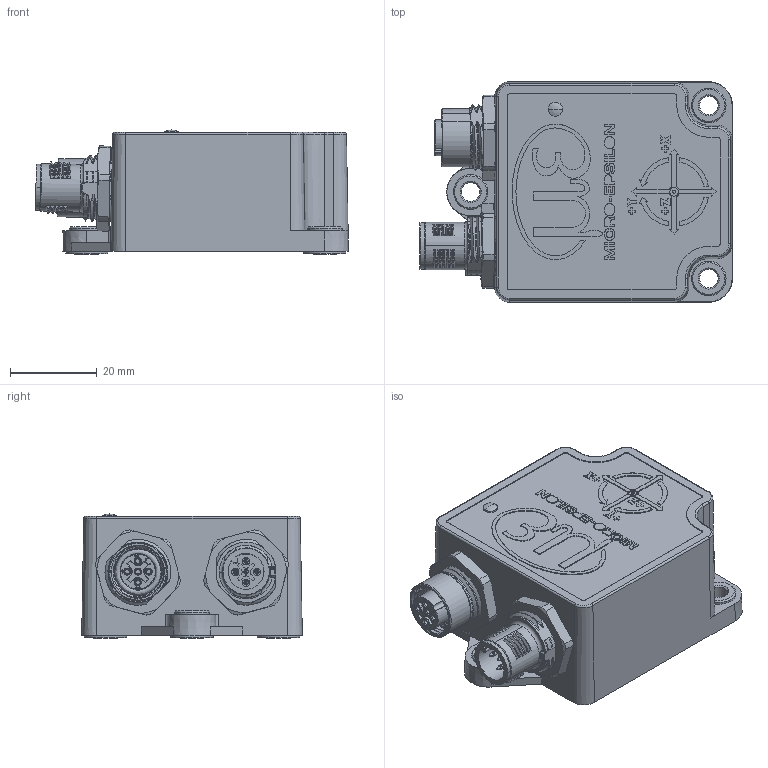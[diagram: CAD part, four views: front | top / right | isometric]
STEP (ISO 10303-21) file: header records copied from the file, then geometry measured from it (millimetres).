
FILE_DESCRIPTION (( 'STEP AP214' ), '1' );
FILE_NAME ('AccIS12 V3.3_LED_2xM12_einseitig_reduzierdefeature.STEP', '2023-01-26T13:03:54', ( '' ), ( '' ), 'SwSTEP 2.0', 'SolidWorks 2019', '' );
FILE_SCHEMA (( 'AUTOMOTIVE_DESIGN' ));
Length unit declared in the file: millimetre
Products named in the file (1): AccIS12 V3.3_LED_2xM12_einseitig_reduzierdefeature
Bounding box: 72.3 x 50.96 x 28.66 mm (x, y, z)
Volume: 74316 mm3; surface area: 16023.1 mm2
Topology: 1 solids, 1 shells, 1135 faces, 3035 edges, 1976 vertices
Faces by surface type: plane 531, bspline 289, cylinder 185, cone 92, torus 34, sphere 4
Full cylindrical faces by diameter (mm): 0.7 x1, 1.1 x5, 2 x1, 4.3 x3, 8 x3, 9.8 x2, 11.7 x1
Entity records: 55519 total; most frequent: CARTESIAN_POINT 23654, ORIENTED_EDGE 5950, DIRECTION 4218, EDGE_CURVE 2975, VERTEX_POINT 1958, VECTOR 1596, LINE 1596, AXIS2_PLACEMENT_3D 1311
